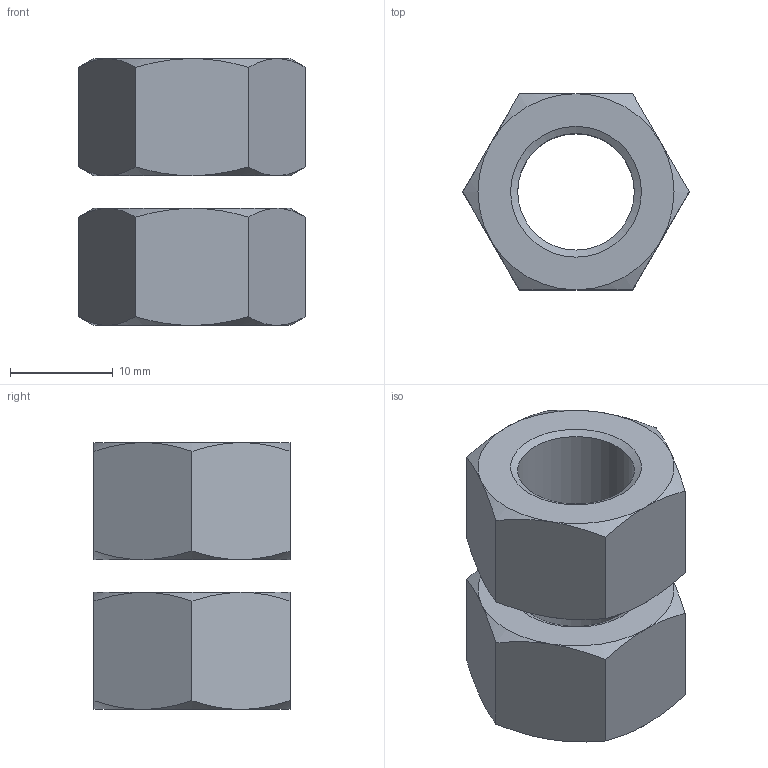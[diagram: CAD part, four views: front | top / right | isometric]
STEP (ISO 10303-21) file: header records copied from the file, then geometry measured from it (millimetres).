
FILE_DESCRIPTION(/* description */ (''),/* implementation_level */ '2;1');
FILE_NAME(/* name */ 'F:\GH SERIES\GH-750-X-XXXX\GH-750-X-125\GH-750-X-125 ASS''Y.iam.stp',/* time_stamp */ '2021-11-17T12:41:11-05:00',/* author */ ('Justin'),/* organization */ (''),/* preprocessor_version */ 'ST-DEVELOPER v18.1',/* originating_system */ 'Autodesk Inventor 2022',/* authorisation */ '');
FILE_SCHEMA (('AUTOMOTIVE_DESIGN { 1 0 10303 214 3 1 1 }'));
Length unit declared in the file: inch
Products named in the file (2): GH-750-D-125 ASS'Y; AS 2465 - 1/2  UNF
Assembly tree (2 placements, depth 2):
  GH-750-D-125 ASS'Y
    AS 2465 - 1/2  UNF  x2
Bounding box: 22 x 19.05 x 25.93 mm (x, y, z)
Volume: 4808.5 mm3; surface area: 3066.4 mm2
Topology: 2 solids, 2 shells, 46 faces, 100 edges, 58 vertices
Faces by surface type: cone 28, plane 16, cylinder 2
Full cylindrical faces by diameter (mm): 11.328 x2
Entity records: 676 total; most frequent: CARTESIAN_POINT 154, ORIENTED_EDGE 100, DIRECTION 97, EDGE_CURVE 50, AXIS2_PLACEMENT_3D 44, VERTEX_POINT 29, EDGE_LOOP 25, FACE_OUTER_BOUND 23
